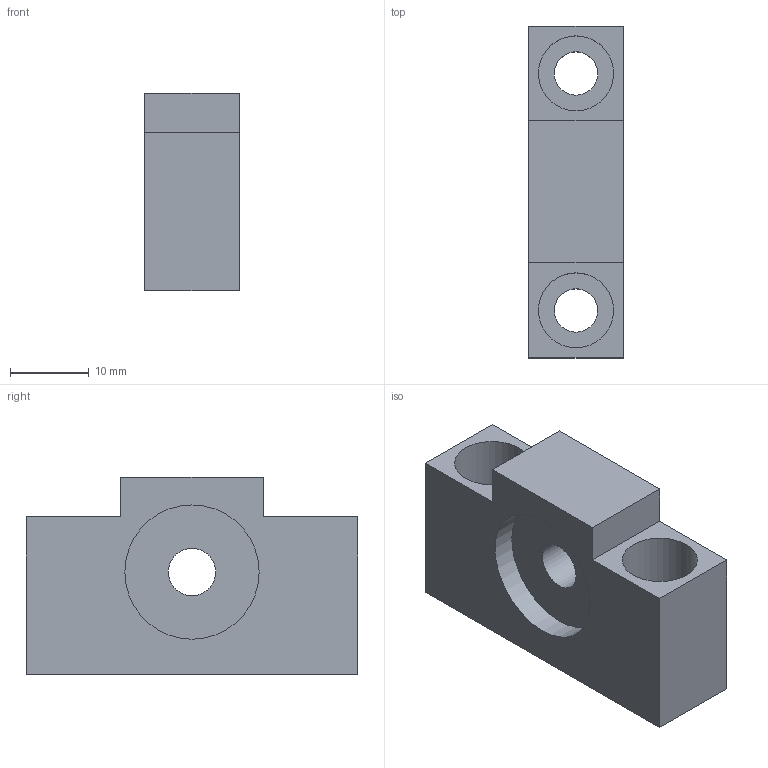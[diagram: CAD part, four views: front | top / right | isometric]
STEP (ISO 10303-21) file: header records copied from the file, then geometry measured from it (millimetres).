
FILE_DESCRIPTION((''),'2;1');
FILE_NAME('D:\製品 (図面)\カタログ用3D\ネジ関連\STEP形式\FH\FH6.stp','2010-06-01T16:42:53',('Tsuchiya'),(''),'Autodesk Inventor 10','Autodesk Inventor 10','');
FILE_SCHEMA(('AUTOMOTIVE_DESIGN { 1 0 10303 214 1 1 1 1 }'));
Length unit declared in the file: millimetre
Products named in the file (1): FH6
Bounding box: 12 x 42 x 25 mm (x, y, z)
Volume: 7924.4 mm3; surface area: 4642 mm2
Topology: 1 solids, 1 shells, 21 faces, 45 edges, 30 vertices
Faces by surface type: plane 12, bspline 6, cylinder 3
Full cylindrical faces by diameter (mm): 6 x1, 17 x2
Entity records: 625 total; most frequent: CARTESIAN_POINT 164, DIRECTION 84, ORIENTED_EDGE 76, EDGE_CURVE 38, EDGE_LOOP 38, AXIS2_PLACEMENT_3D 30, VERTEX_POINT 30, VECTOR 24
